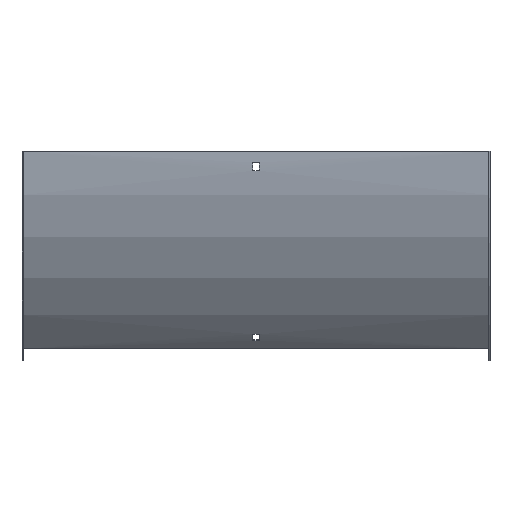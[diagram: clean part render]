
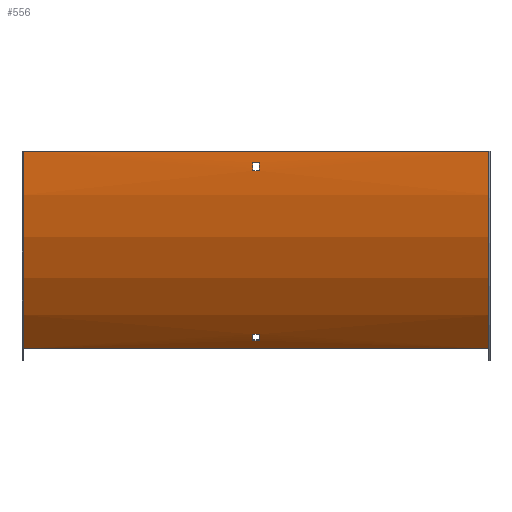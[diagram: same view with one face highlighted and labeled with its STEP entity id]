
A CAD part, front view. The second image highlights one B-rep face of the part: STEP entity #556.
In plain terms, the highlighted cylindrical face has radius 300 mm (diameter 600 mm), a partial arc.
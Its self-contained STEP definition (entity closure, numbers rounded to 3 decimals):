
#1 = FACE_OUTER_BOUND ( 'NONE', #421, .T. ) ;
#21 = EDGE_CURVE ( 'NONE', #23, #533, #547, .T. ) ;
#23 = VERTEX_POINT ( 'NONE', #540 ) ;
#25 = EDGE_CURVE ( 'NONE', #329, #429, #586, .T. ) ;
#26 = DIRECTION ( 'NONE',  ( 1., 0., 0. ) ) ;
#28 = CIRCLE ( 'NONE', #131, 300. ) ;
#45 = CARTESIAN_POINT ( 'NONE',  ( -250., -1.5, 0. ) ) ;
#50 = ORIENTED_EDGE ( 'NONE', *, *, #477, .F. ) ;
#71 = DIRECTION ( 'NONE',  ( 1., 0., 0. ) ) ;
#84 = CARTESIAN_POINT ( 'NONE',  ( 251.5, 78.052, -203.477 ) ) ;
#98 = VERTEX_POINT ( 'NONE', #267 ) ;
#117 = LINE ( 'NONE', #482, #351 ) ;
#121 = EDGE_CURVE ( 'NONE', #98, #562, #318, .T. ) ;
#125 = AXIS2_PLACEMENT_3D ( 'NONE', #514, #419, #144 ) ;
#127 = VERTEX_POINT ( 'NONE', #275 ) ;
#131 = AXIS2_PLACEMENT_3D ( 'NONE', #565, #370, #239 ) ;
#137 = CARTESIAN_POINT ( 'NONE',  ( 251.5, -1.26, -12. ) ) ;
#144 = DIRECTION ( 'NONE',  ( 0., 0., 1. ) ) ;
#154 = CARTESIAN_POINT ( 'NONE',  ( 250., -1.5, 0. ) ) ;
#156 = ORIENTED_EDGE ( 'NONE', *, *, #215, .T. ) ;
#170 = VECTOR ( 'NONE', #536, 1000. ) ;
#174 = AXIS2_PLACEMENT_3D ( 'NONE', #461, #574, #283 ) ;
#177 = CARTESIAN_POINT ( 'NONE',  ( 250., 298.5, 0. ) ) ;
#187 = EDGE_CURVE ( 'NONE', #573, #98, #517, .T. ) ;
#188 = FACE_BOUND ( 'NONE', #213, .T. ) ;
#193 = DIRECTION ( 'NONE',  ( -1., 0., 0. ) ) ;
#202 = ORIENTED_EDGE ( 'NONE', *, *, #488, .F. ) ;
#203 = VERTEX_POINT ( 'NONE', #470 ) ;
#213 = EDGE_LOOP ( 'NONE', ( #278, #156, #510, #374 ) ) ;
#215 = EDGE_CURVE ( 'NONE', #127, #371, #28, .T. ) ;
#216 = CARTESIAN_POINT ( 'NONE',  ( -3.25, -1.26, -12. ) ) ;
#225 = CARTESIAN_POINT ( 'NONE',  ( 3.25, 298.5, 0. ) ) ;
#237 = DIRECTION ( 'NONE',  ( 1., 0., 0. ) ) ;
#238 = VECTOR ( 'NONE', #520, 1000. ) ;
#239 = DIRECTION ( 'NONE',  ( 0., 0., -1. ) ) ;
#253 = ORIENTED_EDGE ( 'NONE', *, *, #25, .T. ) ;
#256 = CIRCLE ( 'NONE', #125, 300. ) ;
#257 = CYLINDRICAL_SURFACE ( 'NONE', #367, 300. ) ;
#259 = ORIENTED_EDGE ( 'NONE', *, *, #509, .T. ) ;
#261 = DIRECTION ( 'NONE',  ( -1., 0., 0. ) ) ;
#264 = DIRECTION ( 'NONE',  ( -1., 0., 0. ) ) ;
#267 = CARTESIAN_POINT ( 'NONE',  ( 3.25, -1.26, -12. ) ) ;
#275 = CARTESIAN_POINT ( 'NONE',  ( -3.25, 78.052, -203.477 ) ) ;
#278 = ORIENTED_EDGE ( 'NONE', *, *, #436, .T. ) ;
#283 = DIRECTION ( 'NONE',  ( 0., 0., 1. ) ) ;
#288 = VECTOR ( 'NONE', #261, 1000. ) ;
#294 = VECTOR ( 'NONE', #237, 1000. ) ;
#297 = CARTESIAN_POINT ( 'NONE',  ( 251.5, 298.5, 0. ) ) ;
#301 = CARTESIAN_POINT ( 'NONE',  ( 250., -1.5, 0. ) ) ;
#307 = LINE ( 'NONE', #84, #288 ) ;
#314 = DIRECTION ( 'NONE',  ( 0., 0., -1. ) ) ;
#318 = LINE ( 'NONE', #137, #341 ) ;
#319 = CIRCLE ( 'NONE', #422, 300. ) ;
#326 = CARTESIAN_POINT ( 'NONE',  ( 251.5, 72.039, -196.762 ) ) ;
#327 = CARTESIAN_POINT ( 'NONE',  ( 250., 86.368, -212.132 ) ) ;
#329 = VERTEX_POINT ( 'NONE', #154 ) ;
#341 = VECTOR ( 'NONE', #506, 1000. ) ;
#351 = VECTOR ( 'NONE', #71, 1000. ) ;
#358 = EDGE_CURVE ( 'NONE', #203, #573, #117, .T. ) ;
#359 = AXIS2_PLACEMENT_3D ( 'NONE', #435, #26, #581 ) ;
#367 = AXIS2_PLACEMENT_3D ( 'NONE', #297, #193, #582 ) ;
#370 = DIRECTION ( 'NONE',  ( -1., 0., 0. ) ) ;
#371 = VERTEX_POINT ( 'NONE', #605 ) ;
#372 = CARTESIAN_POINT ( 'NONE',  ( 3.25, -0.764, -21. ) ) ;
#374 = ORIENTED_EDGE ( 'NONE', *, *, #21, .T. ) ;
#385 = ORIENTED_EDGE ( 'NONE', *, *, #187, .F. ) ;
#392 = ORIENTED_EDGE ( 'NONE', *, *, #453, .F. ) ;
#395 = DIRECTION ( 'NONE',  ( 0., 0., 1. ) ) ;
#419 = DIRECTION ( 'NONE',  ( -1., 0., 0. ) ) ;
#421 = EDGE_LOOP ( 'NONE', ( #392, #202, #259, #253 ) ) ;
#422 = AXIS2_PLACEMENT_3D ( 'NONE', #177, #264, #395 ) ;
#424 = LINE ( 'NONE', #327, #238 ) ;
#427 = LINE ( 'NONE', #326, #294 ) ;
#429 = VERTEX_POINT ( 'NONE', #45 ) ;
#432 = VERTEX_POINT ( 'NONE', #541 ) ;
#435 = CARTESIAN_POINT ( 'NONE',  ( 3.25, 298.5, 0. ) ) ;
#436 = EDGE_CURVE ( 'NONE', #533, #127, #307, .T. ) ;
#453 = EDGE_CURVE ( 'NONE', #432, #429, #256, .T. ) ;
#455 = CARTESIAN_POINT ( 'NONE',  ( 3.25, 78.052, -203.477 ) ) ;
#460 = FACE_BOUND ( 'NONE', #535, .T. ) ;
#461 = CARTESIAN_POINT ( 'NONE',  ( -3.25, 298.5, 0. ) ) ;
#470 = CARTESIAN_POINT ( 'NONE',  ( -3.25, -0.764, -21. ) ) ;
#474 = ORIENTED_EDGE ( 'NONE', *, *, #358, .F. ) ;
#477 = EDGE_CURVE ( 'NONE', #562, #203, #495, .T. ) ;
#482 = CARTESIAN_POINT ( 'NONE',  ( 251.5, -0.764, -21. ) ) ;
#485 = AXIS2_PLACEMENT_3D ( 'NONE', #225, #604, #314 ) ;
#488 = EDGE_CURVE ( 'NONE', #513, #432, #424, .T. ) ;
#493 = CARTESIAN_POINT ( 'NONE',  ( 250., 86.368, -212.132 ) ) ;
#495 = CIRCLE ( 'NONE', #174, 300. ) ;
#506 = DIRECTION ( 'NONE',  ( -1., 0., 0. ) ) ;
#509 = EDGE_CURVE ( 'NONE', #513, #329, #319, .T. ) ;
#510 = ORIENTED_EDGE ( 'NONE', *, *, #588, .T. ) ;
#513 = VERTEX_POINT ( 'NONE', #493 ) ;
#514 = CARTESIAN_POINT ( 'NONE',  ( -250., 298.5, 0. ) ) ;
#517 = CIRCLE ( 'NONE', #485, 300. ) ;
#520 = DIRECTION ( 'NONE',  ( -1., 0., 0. ) ) ;
#533 = VERTEX_POINT ( 'NONE', #455 ) ;
#535 = EDGE_LOOP ( 'NONE', ( #50, #566, #385, #474 ) ) ;
#536 = DIRECTION ( 'NONE',  ( -1., 0., 0. ) ) ;
#540 = CARTESIAN_POINT ( 'NONE',  ( 3.25, 72.039, -196.762 ) ) ;
#541 = CARTESIAN_POINT ( 'NONE',  ( -250., 86.368, -212.132 ) ) ;
#547 = CIRCLE ( 'NONE', #359, 300. ) ;
#556 = ADVANCED_FACE ( 'NONE', ( #460, #1, #188 ), #257, .T. ) ;
#562 = VERTEX_POINT ( 'NONE', #216 ) ;
#565 = CARTESIAN_POINT ( 'NONE',  ( -3.25, 298.5, 0. ) ) ;
#566 = ORIENTED_EDGE ( 'NONE', *, *, #121, .F. ) ;
#573 = VERTEX_POINT ( 'NONE', #372 ) ;
#574 = DIRECTION ( 'NONE',  ( 1., 0., 0. ) ) ;
#581 = DIRECTION ( 'NONE',  ( 0., 0., 1. ) ) ;
#582 = DIRECTION ( 'NONE',  ( 0., 0., 1. ) ) ;
#586 = LINE ( 'NONE', #301, #170 ) ;
#588 = EDGE_CURVE ( 'NONE', #371, #23, #427, .T. ) ;
#604 = DIRECTION ( 'NONE',  ( -1., 0., 0. ) ) ;
#605 = CARTESIAN_POINT ( 'NONE',  ( -3.25, 72.039, -196.762 ) ) ;
